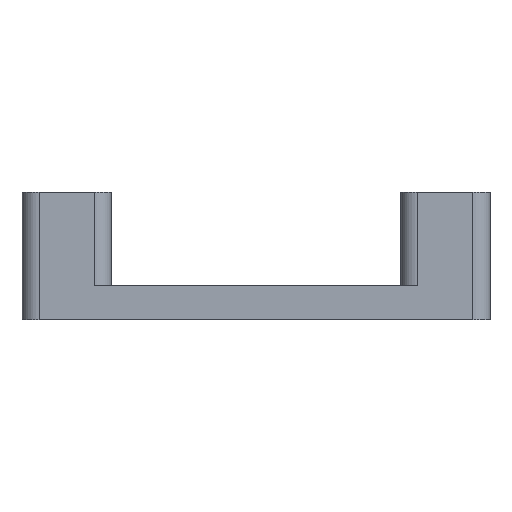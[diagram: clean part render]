
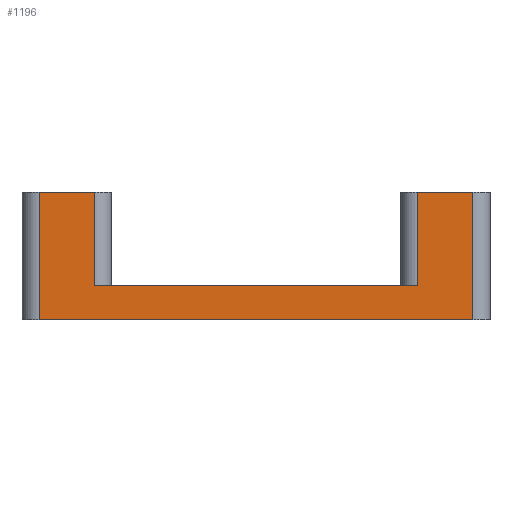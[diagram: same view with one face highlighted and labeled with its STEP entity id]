
A CAD part, front view. The second image highlights one B-rep face of the part: STEP entity #1196.
In plain terms, the highlighted planar face has unit normal (0, -1, 0).
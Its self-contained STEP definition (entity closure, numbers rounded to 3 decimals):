
#26 = CARTESIAN_POINT ( 'NONE',  ( 12.75, -19.5, 7.5 ) ) ;
#28 = CARTESIAN_POINT ( 'NONE',  ( 9.5, -19.5, 7.5 ) ) ;
#42 = CARTESIAN_POINT ( 'NONE',  ( -9.5, -19.5, 7.5 ) ) ;
#46 = CARTESIAN_POINT ( 'NONE',  ( -12.75, -19.5, 7.5 ) ) ;
#61 = CARTESIAN_POINT ( 'NONE',  ( 9.5, -19.5, 2. ) ) ;
#195 = DIRECTION ( 'NONE',  ( 0., 0., 1. ) ) ;
#212 = PLANE ( 'NONE',  #1801 ) ;
#214 = DIRECTION ( 'NONE',  ( 0., 1., 0. ) ) ;
#215 = CARTESIAN_POINT ( 'NONE',  ( -13.75, -19.5, 7.5 ) ) ;
#359 = CARTESIAN_POINT ( 'NONE',  ( 12.75, -19.5, 0. ) ) ;
#365 = CARTESIAN_POINT ( 'NONE',  ( -13.75, -19.5, 7.5 ) ) ;
#368 = CARTESIAN_POINT ( 'NONE',  ( -9.5, -19.5, 2. ) ) ;
#370 = CARTESIAN_POINT ( 'NONE',  ( -12.75, -19.5, 0. ) ) ;
#372 = DIRECTION ( 'NONE',  ( 1., 0., 0. ) ) ;
#406 = DIRECTION ( 'NONE',  ( 1., 0., 0. ) ) ;
#418 = CARTESIAN_POINT ( 'NONE',  ( -13.75, -19.5, 7.5 ) ) ;
#430 = DIRECTION ( 'NONE',  ( 1., 0., 0. ) ) ;
#437 = CARTESIAN_POINT ( 'NONE',  ( -13.75, -19.5, 0. ) ) ;
#632 = DIRECTION ( 'NONE',  ( -1., 0., 0. ) ) ;
#635 = CARTESIAN_POINT ( 'NONE',  ( 9.5, -19.5, 7.5 ) ) ;
#638 = DIRECTION ( 'NONE',  ( 0., 0., 1. ) ) ;
#640 = CARTESIAN_POINT ( 'NONE',  ( -9.5, -19.5, 7.5 ) ) ;
#646 = CARTESIAN_POINT ( 'NONE',  ( -12.75, -19.5, 7.5 ) ) ;
#653 = DIRECTION ( 'NONE',  ( 0., 0., 1. ) ) ;
#654 = DIRECTION ( 'NONE',  ( 0., 0., -1. ) ) ;
#656 = DIRECTION ( 'NONE',  ( 0., 0., -1. ) ) ;
#657 = CARTESIAN_POINT ( 'NONE',  ( -13.75, -19.5, 2. ) ) ;
#662 = CARTESIAN_POINT ( 'NONE',  ( 12.75, -19.5, 7.5 ) ) ;
#716 = VERTEX_POINT ( 'NONE', #61 ) ;
#737 = VERTEX_POINT ( 'NONE', #42 ) ;
#744 = VERTEX_POINT ( 'NONE', #26 ) ;
#750 = VERTEX_POINT ( 'NONE', #46 ) ;
#756 = VERTEX_POINT ( 'NONE', #28 ) ;
#918 = FACE_OUTER_BOUND ( 'NONE', #1470, .T. ) ;
#988 = LINE ( 'NONE', #418, #1013 ) ;
#993 = VECTOR ( 'NONE', #372, 1000. ) ;
#1009 = LINE ( 'NONE', #365, #993 ) ;
#1013 = VECTOR ( 'NONE', #406, 1000. ) ;
#1023 = VECTOR ( 'NONE', #430, 1000. ) ;
#1044 = LINE ( 'NONE', #437, #1023 ) ;
#1071 = VECTOR ( 'NONE', #632, 1000. ) ;
#1080 = VECTOR ( 'NONE', #656, 1000. ) ;
#1085 = LINE ( 'NONE', #635, #1080 ) ;
#1095 = LINE ( 'NONE', #657, #1071 ) ;
#1104 = LINE ( 'NONE', #646, #1106 ) ;
#1106 = VECTOR ( 'NONE', #654, 1000. ) ;
#1116 = LINE ( 'NONE', #640, #1117 ) ;
#1117 = VECTOR ( 'NONE', #653, 1000. ) ;
#1134 = LINE ( 'NONE', #662, #1142 ) ;
#1142 = VECTOR ( 'NONE', #638, 1000. ) ;
#1196 = ADVANCED_FACE ( 'NONE', ( #918 ), #212, .F. ) ;
#1235 = ORIENTED_EDGE ( 'NONE', *, *, #1631, .F. ) ;
#1278 = ORIENTED_EDGE ( 'NONE', *, *, #1694, .T. ) ;
#1282 = ORIENTED_EDGE ( 'NONE', *, *, #1707, .T. ) ;
#1283 = ORIENTED_EDGE ( 'NONE', *, *, #1638, .F. ) ;
#1287 = ORIENTED_EDGE ( 'NONE', *, *, #1704, .T. ) ;
#1291 = ORIENTED_EDGE ( 'NONE', *, *, #1699, .T. ) ;
#1310 = ORIENTED_EDGE ( 'NONE', *, *, #1657, .T. ) ;
#1311 = ORIENTED_EDGE ( 'NONE', *, *, #1696, .T. ) ;
#1460 = VERTEX_POINT ( 'NONE', #368 ) ;
#1462 = VERTEX_POINT ( 'NONE', #370 ) ;
#1463 = VERTEX_POINT ( 'NONE', #359 ) ;
#1470 = EDGE_LOOP ( 'NONE', ( #1311, #1287, #1235, #1278, #1310, #1282, #1283, #1291 ) ) ;
#1631 = EDGE_CURVE ( 'NONE', #750, #737, #1009, .T. ) ;
#1638 = EDGE_CURVE ( 'NONE', #756, #744, #988, .T. ) ;
#1657 = EDGE_CURVE ( 'NONE', #1462, #1463, #1044, .T. ) ;
#1694 = EDGE_CURVE ( 'NONE', #750, #1462, #1104, .T. ) ;
#1696 = EDGE_CURVE ( 'NONE', #716, #1460, #1095, .T. ) ;
#1699 = EDGE_CURVE ( 'NONE', #756, #716, #1085, .T. ) ;
#1704 = EDGE_CURVE ( 'NONE', #1460, #737, #1116, .T. ) ;
#1707 = EDGE_CURVE ( 'NONE', #1463, #744, #1134, .T. ) ;
#1801 = AXIS2_PLACEMENT_3D ( 'NONE', #215, #214, #195 ) ;
